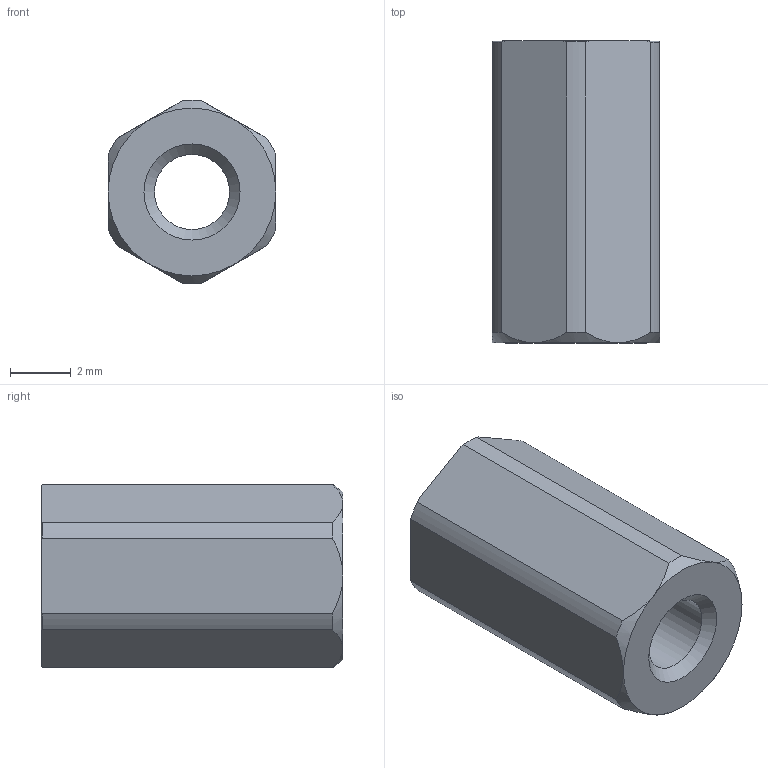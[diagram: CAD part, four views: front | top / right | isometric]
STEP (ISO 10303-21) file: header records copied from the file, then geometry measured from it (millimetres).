
FILE_DESCRIPTION(/* description */ ('STEP AP242 Edition 2','CAx-IF Rec.Pracs.---Representation and Presentation of Product Manufacturing Information (PMI)---4.0---2014-10-13','CAx-IF Rec.Pracs.---3D Tessellated Geometry---0.4---2014-09-14','2;1','CAx-IF Rec.Pracs.---User Defined Attributes---1.5---2016-08-15'),/* implementation_level */ '2;1');
FILE_NAME(/* name */ 'Final Build - M3x10x5.5-Spacer_1',/* time_stamp */ '2026-08-31T23:26:14Z',/* author */ (''),/* organization */ (''),/* preprocessor_version */ 'ST-DEVELOPER v20',/* originating_system */ 'ONSHAPE BY PTC INC, 1.220',/* authorisation */ ' ');
FILE_SCHEMA (('AP242_MANAGED_MODEL_BASED_3D_ENGINEERING_MIM_LF { 1 0 10303 442 3 1 4 }'));
Length unit declared in the file: metre
Products named in the file (1): M3x10x5.5-Spacer_1
Bounding box: 5.5 x 9.9 x 6.03 mm (x, y, z)
Volume: 208.5 mm3; surface area: 297.8 mm2
Topology: 1 solids, 1 shells, 29 faces, 73 edges, 46 vertices
Faces by surface type: cone 14, plane 8, cylinder 7
Full cylindrical faces by diameter (mm): 2.46 x1
Entity records: 882 total; most frequent: CARTESIAN_POINT 170, DIRECTION 158, ORIENTED_EDGE 140, EDGE_CURVE 70, AXIS2_PLACEMENT_3D 70, VERTEX_POINT 46, CIRCLE 40, EDGE_LOOP 34
